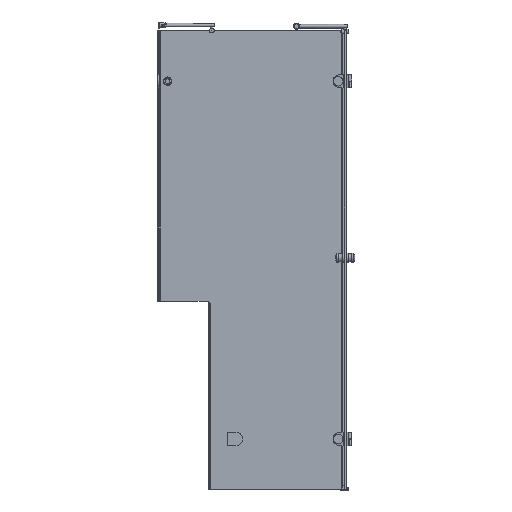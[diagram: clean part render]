
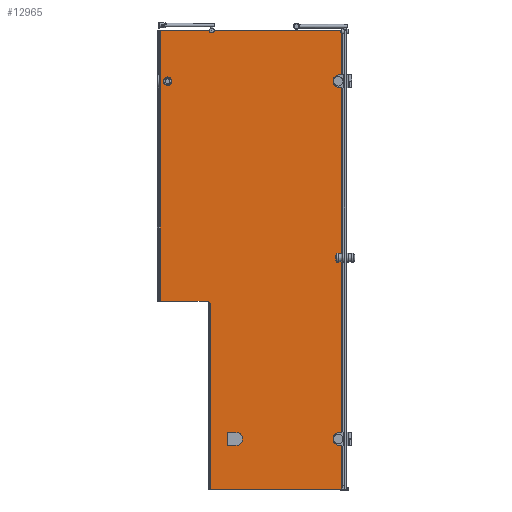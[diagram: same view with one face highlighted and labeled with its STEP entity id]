
A CAD part, left-side view. The second image highlights one B-rep face of the part: STEP entity #12965.
In plain terms, the highlighted planar face has unit normal (-1, 0, 0).
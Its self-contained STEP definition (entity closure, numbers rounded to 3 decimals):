
#95=LINE($,#18596,#1372);
#148=LINE($,#18751,#1425);
#153=LINE($,#18764,#1430);
#156=LINE($,#18770,#1433);
#539=LINE($,#20290,#1816);
#567=LINE($,#20379,#1844);
#568=LINE($,#20381,#1845);
#569=LINE($,#20385,#1846);
#570=LINE($,#20387,#1847);
#571=LINE($,#20389,#1848);
#572=LINE($,#20391,#1849);
#573=LINE($,#20393,#1850);
#574=LINE($,#20395,#1851);
#575=LINE($,#20399,#1852);
#576=LINE($,#20401,#1853);
#577=LINE($,#20408,#1854);
#1372=VECTOR($,#14750,529.796);
#1425=VECTOR($,#14895,23.);
#1430=VECTOR($,#14908,23.);
#1433=VECTOR($,#14917,52.);
#1816=VECTOR($,#16020,1120.);
#1844=VECTOR($,#16114,203.504);
#1845=VECTOR($,#16115,194.3);
#1846=VECTOR($,#16118,772.);
#1847=VECTOR($,#16119,2.443);
#1848=VECTOR($,#16120,772.);
#1849=VECTOR($,#16121,2.257);
#1850=VECTOR($,#16122,772.);
#1851=VECTOR($,#16123,540.719);
#1852=VECTOR($,#16126,3.581);
#1853=VECTOR($,#16127,12.192);
#1854=VECTOR($,#16134,1884.733);
#2963=FACE_BOUND($,#4061,.T.);
#2964=FACE_BOUND($,#4062,.T.);
#3263=FACE_OUTER_BOUND($,#4060,.T.);
#4060=EDGE_LOOP($,(#9261,#9262,#9263,#9264,#9265,#9266,#9267,#9268,#9269,
#9270,#9271,#9272,#9273,#9274,#9275,#9276,#9277,#9278,#9279));
#4061=EDGE_LOOP($,(#9280,#9281,#9282,#9283));
#4062=EDGE_LOOP($,(#9284));
#4548=CIRCLE($,#13457,10.);
#4585=CIRCLE($,#13533,26.);
#4657=CIRCLE($,#13737,15.);
#4758=CIRCLE($,#13931,8.);
#4759=CIRCLE($,#13932,2.);
#4760=CIRCLE($,#13933,16.);
#4761=CIRCLE($,#13934,0.5);
#4762=CIRCLE($,#13935,16.);
#4990=VERTEX_POINT($,#18344);
#4991=VERTEX_POINT($,#18345);
#5031=VERTEX_POINT($,#18595);
#5086=VERTEX_POINT($,#18748);
#5087=VERTEX_POINT($,#18750);
#5089=VERTEX_POINT($,#18756);
#5091=VERTEX_POINT($,#18762);
#5302=VERTEX_POINT($,#19479);
#5491=VERTEX_POINT($,#20288);
#5492=VERTEX_POINT($,#20289);
#5521=VERTEX_POINT($,#20380);
#5522=VERTEX_POINT($,#20382);
#5523=VERTEX_POINT($,#20384);
#5524=VERTEX_POINT($,#20386);
#5525=VERTEX_POINT($,#20388);
#5526=VERTEX_POINT($,#20390);
#5527=VERTEX_POINT($,#20392);
#5528=VERTEX_POINT($,#20394);
#5529=VERTEX_POINT($,#20396);
#5530=VERTEX_POINT($,#20398);
#5531=VERTEX_POINT($,#20400);
#5532=VERTEX_POINT($,#20402);
#5533=VERTEX_POINT($,#20404);
#5534=VERTEX_POINT($,#20406);
#6134=EDGE_CURVE($,#4990,#4991,#4548,.T.);
#6182=EDGE_CURVE($,#5031,#4990,#95,.T.);
#6257=EDGE_CURVE($,#5087,#5086,#148,.T.);
#6261=EDGE_CURVE($,#5086,#5089,#4585,.T.);
#6264=EDGE_CURVE($,#5089,#5091,#153,.T.);
#6267=EDGE_CURVE($,#5091,#5087,#156,.T.);
#6580=EDGE_CURVE($,#5302,#5302,#4657,.T.);
#6822=EDGE_CURVE($,#5491,#5492,#539,.T.);
#6868=EDGE_CURVE($,#4991,#5491,#567,.T.);
#6869=EDGE_CURVE($,#5492,#5521,#568,.T.);
#6870=EDGE_CURVE($,#5522,#5521,#4758,.T.);
#6871=EDGE_CURVE($,#5522,#5523,#569,.T.);
#6872=EDGE_CURVE($,#5524,#5523,#570,.T.);
#6873=EDGE_CURVE($,#5524,#5525,#571,.T.);
#6874=EDGE_CURVE($,#5525,#5526,#572,.T.);
#6875=EDGE_CURVE($,#5526,#5527,#573,.T.);
#6876=EDGE_CURVE($,#5528,#5527,#574,.T.);
#6877=EDGE_CURVE($,#5528,#5529,#4759,.T.);
#6878=EDGE_CURVE($,#5529,#5530,#575,.T.);
#6879=EDGE_CURVE($,#5531,#5530,#576,.T.);
#6880=EDGE_CURVE($,#5531,#5532,#4760,.T.);
#6881=EDGE_CURVE($,#5532,#5533,#4761,.T.);
#6882=EDGE_CURVE($,#5533,#5534,#4762,.T.);
#6883=EDGE_CURVE($,#5031,#5534,#577,.T.);
#9261=ORIENTED_EDGE($,*,*,#6134,.T.);
#9262=ORIENTED_EDGE($,*,*,#6868,.T.);
#9263=ORIENTED_EDGE($,*,*,#6822,.T.);
#9264=ORIENTED_EDGE($,*,*,#6869,.T.);
#9265=ORIENTED_EDGE($,*,*,#6870,.F.);
#9266=ORIENTED_EDGE($,*,*,#6871,.T.);
#9267=ORIENTED_EDGE($,*,*,#6872,.F.);
#9268=ORIENTED_EDGE($,*,*,#6873,.T.);
#9269=ORIENTED_EDGE($,*,*,#6874,.T.);
#9270=ORIENTED_EDGE($,*,*,#6875,.T.);
#9271=ORIENTED_EDGE($,*,*,#6876,.F.);
#9272=ORIENTED_EDGE($,*,*,#6877,.T.);
#9273=ORIENTED_EDGE($,*,*,#6878,.T.);
#9274=ORIENTED_EDGE($,*,*,#6879,.F.);
#9275=ORIENTED_EDGE($,*,*,#6880,.T.);
#9276=ORIENTED_EDGE($,*,*,#6881,.T.);
#9277=ORIENTED_EDGE($,*,*,#6882,.T.);
#9278=ORIENTED_EDGE($,*,*,#6883,.F.);
#9279=ORIENTED_EDGE($,*,*,#6182,.T.);
#9280=ORIENTED_EDGE($,*,*,#6257,.T.);
#9281=ORIENTED_EDGE($,*,*,#6261,.T.);
#9282=ORIENTED_EDGE($,*,*,#6264,.T.);
#9283=ORIENTED_EDGE($,*,*,#6267,.T.);
#9284=ORIENTED_EDGE($,*,*,#6580,.T.);
#11625=PLANE($,#13930);
#12965=ADVANCED_FACE($,(#3263,#2963,#2964),#11625,.T.);
#13457=AXIS2_PLACEMENT_3D($,#18346,#14668,#14669);
#13533=AXIS2_PLACEMENT_3D($,#18758,#14902,#14903);
#13737=AXIS2_PLACEMENT_3D($,#19480,#15555,#15556);
#13930=AXIS2_PLACEMENT_3D($,#20378,#16112,#16113);
#13931=AXIS2_PLACEMENT_3D($,#20383,#16116,#16117);
#13932=AXIS2_PLACEMENT_3D($,#20397,#16124,#16125);
#13933=AXIS2_PLACEMENT_3D($,#20403,#16128,#16129);
#13934=AXIS2_PLACEMENT_3D($,#20405,#16130,#16131);
#13935=AXIS2_PLACEMENT_3D($,#20407,#16132,#16133);
#14668=DIRECTION('center_axis',(1.,0.,0.));
#14669=DIRECTION('ref_axis',(0.,0.597,0.802));
#14750=DIRECTION($,(0.,1.,0.));
#14895=DIRECTION($,(0.,-1.,0.));
#14902=DIRECTION('center_axis',(1.,0.,0.));
#14903=DIRECTION('ref_axis',(0.,0.,
-1.));
#14908=DIRECTION($,(0.,1.,0.));
#14917=DIRECTION($,(0.,0.,1.));
#15555=DIRECTION('center_axis',(1.,0.,0.));
#15556=DIRECTION('ref_axis',(0.,-1.,0.));
#16020=DIRECTION($,(0.,0.,-1.));
#16112=DIRECTION('center_axis',(-1.,0.,0.));
#16113=DIRECTION('ref_axis',(0.,1.,0.));
#16114=DIRECTION($,(0.,1.,0.));
#16115=DIRECTION($,(0.,-1.,0.));
#16116=DIRECTION('center_axis',(-1.,0.,0.));
#16117=DIRECTION('ref_axis',(0.,-0.707,0.707));
#16118=DIRECTION($,(0.,0.,-1.));
#16119=DIRECTION($,(0.,1.,0.));
#16120=DIRECTION($,(0.,0.,1.));
#16121=DIRECTION($,(0.,-1.,0.));
#16122=DIRECTION($,(0.,0.,-1.));
#16123=DIRECTION($,(0.,1.,0.));
#16124=DIRECTION('center_axis',(1.,0.,0.));
#16125=DIRECTION('ref_axis',(0.,0.707,0.707));
#16126=DIRECTION($,(0.,-1.,0.));
#16127=DIRECTION($,(0.,0.,-1.));
#16128=DIRECTION('center_axis',(1.,0.,0.));
#16129=DIRECTION('ref_axis',(0.,-0.71,-0.704));
#16130=DIRECTION('center_axis',(1.,0.,0.));
#16131=DIRECTION('ref_axis',(0.,-0.169,-0.986));
#16132=DIRECTION('center_axis',(-1.,0.,0.));
#16133=DIRECTION('ref_axis',(0.,0.747,0.665));
#16134=DIRECTION($,(0.,0.,-1.));
#18344=CARTESIAN_POINT('',(1250.019,510.752,1385.944));
#18345=CARTESIAN_POINT('',(1250.019,530.752,1385.944));
#18346=CARTESIAN_POINT('Origin',(1250.019,520.752,1385.944));
#18595=CARTESIAN_POINT('',(1250.019,-19.044,1385.944));
#18596=CARTESIAN_POINT($,(1250.019,-19.044,1385.944));
#18748=CARTESIAN_POINT('',(1250.019,420.956,-278.056));
#18750=CARTESIAN_POINT('',(1250.019,443.956,-278.056));
#18751=CARTESIAN_POINT($,(1250.019,200.956,-278.056));
#18756=CARTESIAN_POINT('',(1250.019,420.956,-330.056));
#18758=CARTESIAN_POINT('Origin',(1250.019,420.956,-304.056));
#18762=CARTESIAN_POINT('',(1250.019,443.956,-330.056));
#18764=CARTESIAN_POINT($,(1250.019,212.456,-330.056));
#18770=CARTESIAN_POINT($,(1250.019,443.956,553.944));
#19479=CARTESIAN_POINT('',(1250.019,718.956,1175.944));
#19480=CARTESIAN_POINT('Origin',(1250.019,703.956,1175.944));
#20288=CARTESIAN_POINT('',(1250.019,734.256,1385.944));
#20289=CARTESIAN_POINT('',(1250.019,734.256,265.944));
#20290=CARTESIAN_POINT($,(1250.019,734.256,825.944));
#20378=CARTESIAN_POINT('Origin',(1250.019,-19.044,1385.944));
#20379=CARTESIAN_POINT($,(1250.019,-19.044,1385.944));
#20380=CARTESIAN_POINT('',(1250.019,539.956,265.944));
#20381=CARTESIAN_POINT($,(1250.019,738.956,265.944));
#20382=CARTESIAN_POINT('',(1250.019,531.956,257.944));
#20383=CARTESIAN_POINT('Origin',(1250.019,539.956,257.944));
#20384=CARTESIAN_POINT('',(1250.019,531.956,-514.056));
#20385=CARTESIAN_POINT($,(1250.019,531.956,1385.944));
#20386=CARTESIAN_POINT('',(1250.019,529.513,-514.056));
#20387=CARTESIAN_POINT($,(1250.019,-19.044,-514.056));
#20388=CARTESIAN_POINT('',(1250.019,529.513,257.944));
#20389=CARTESIAN_POINT($,(1250.019,529.513,435.944));
#20390=CARTESIAN_POINT('',(1250.019,527.256,257.944));
#20391=CARTESIAN_POINT($,(1250.019,256.856,257.944));
#20392=CARTESIAN_POINT('',(1250.019,527.256,-514.056));
#20393=CARTESIAN_POINT($,(1250.019,527.256,435.944));
#20394=CARTESIAN_POINT('',(1250.019,-13.463,-514.056));
#20395=CARTESIAN_POINT($,(1250.019,-19.044,-514.056));
#20396=CARTESIAN_POINT('',(1250.019,-15.463,-512.056));
#20397=CARTESIAN_POINT('Origin',(1250.019,-15.463,-514.056));
#20398=CARTESIAN_POINT('',(1250.019,-19.044,-512.056));
#20399=CARTESIAN_POINT($,(1250.019,-23.879,-512.056));
#20400=CARTESIAN_POINT('',(1250.019,-19.044,-499.863));
#20401=CARTESIAN_POINT($,(1250.019,-19.044,1385.944));
#20402=CARTESIAN_POINT('',(1250.019,-18.129,-500.048));
#20403=CARTESIAN_POINT('Origin',(1250.019,-15.419,-484.28));
#20404=CARTESIAN_POINT('',(1250.019,-17.939,-499.067));
#20405=CARTESIAN_POINT('Origin',(1250.019,-18.044,-499.556));
#20406=CARTESIAN_POINT('',(1250.019,-19.044,-498.789));
#20407=CARTESIAN_POINT('Origin',(1250.019,-14.589,-483.421));
#20408=CARTESIAN_POINT($,(1250.019,-19.044,1385.944));
